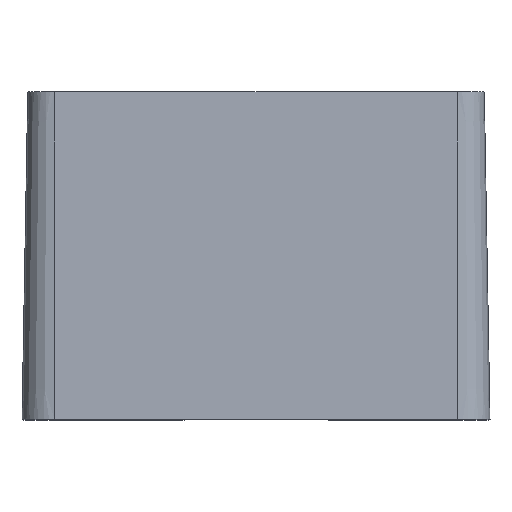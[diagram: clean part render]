
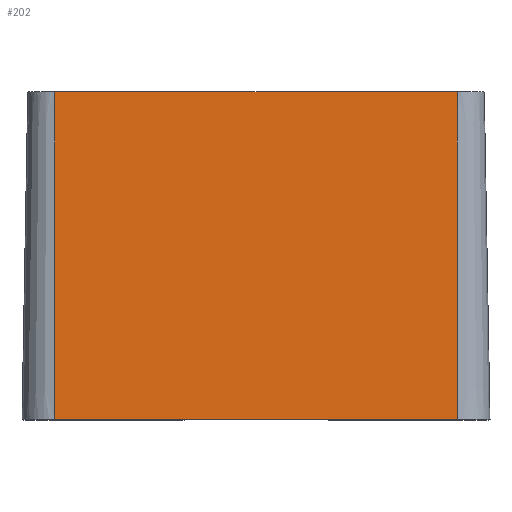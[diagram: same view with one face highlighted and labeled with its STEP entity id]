
A CAD part, top view. The second image highlights one B-rep face of the part: STEP entity #202.
In plain terms, the highlighted planar face has unit normal (0, 0.018, 1).
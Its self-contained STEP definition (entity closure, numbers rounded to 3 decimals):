
#202=ADVANCED_FACE('',(#487),#489,.T.);
#487=FACE_BOUND('',#488,.T.);
#488=EDGE_LOOP('',(#734,#735,#736,#737));
#489=PLANE('',#490);
#490=AXIS2_PLACEMENT_3D('',#491,#492,#493);
#491=CARTESIAN_POINT('',(-24.6,0.,28.6));
#492=DIRECTION('',(0.,0.017,1.));
#493=DIRECTION('',(1.,0.,0.));
#734=ORIENTED_EDGE('',*,*,#816,.T.);
#735=ORIENTED_EDGE('',*,*,#869,.T.);
#736=ORIENTED_EDGE('',*,*,#858,.F.);
#737=ORIENTED_EDGE('',*,*,#870,.F.);
#816=EDGE_CURVE('',#927,#925,#928,.T.);
#858=EDGE_CURVE('',#998,#1000,#1001,.T.);
#869=EDGE_CURVE('',#925,#1000,#1019,.T.);
#870=EDGE_CURVE('',#927,#998,#1020,.T.);
#925=VERTEX_POINT('',#1126);
#927=VERTEX_POINT('',#1131);
#928=LINE('',#1132,#1133);
#998=VERTEX_POINT('',#1300);
#1000=VERTEX_POINT('',#1305);
#1001=LINE('',#1306,#1307);
#1019=LINE('',#1353,#1354);
#1020=LINE('',#1356,#1357);
#1126=CARTESIAN_POINT('',(24.6,0.,28.6));
#1131=CARTESIAN_POINT('',(-24.6,0.,28.6));
#1132=CARTESIAN_POINT('',(-24.6,0.,28.6));
#1133=VECTOR('',#1134,1.);
#1134=DIRECTION('',(1.,0.,0.));
#1300=CARTESIAN_POINT('',(-24.6,40.,27.902));
#1305=CARTESIAN_POINT('',(24.6,40.,27.902));
#1306=CARTESIAN_POINT('',(-24.6,40.,27.902));
#1307=VECTOR('',#1308,1.);
#1308=DIRECTION('',(1.,0.,0.));
#1353=CARTESIAN_POINT('',(24.6,0.,28.6));
#1354=VECTOR('',#1355,1.);
#1355=DIRECTION('',(0.,1.,-0.017));
#1356=CARTESIAN_POINT('',(-24.6,0.,28.6));
#1357=VECTOR('',#1358,1.);
#1358=DIRECTION('',(0.,1.,-0.017));
